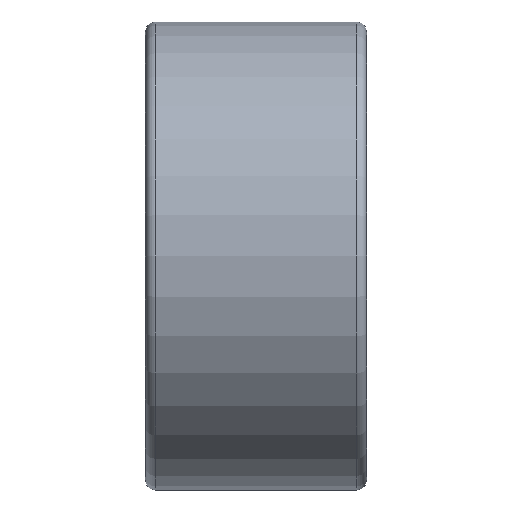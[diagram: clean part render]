
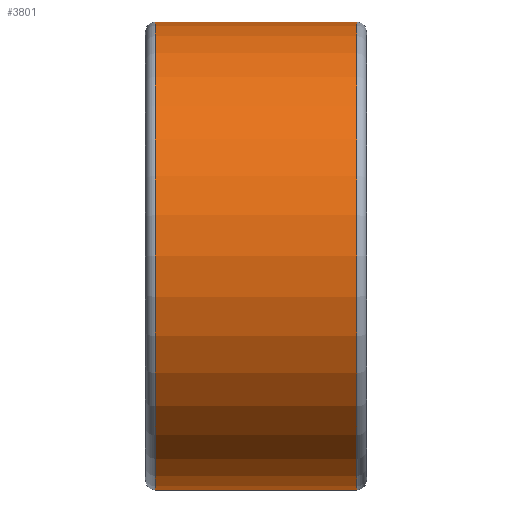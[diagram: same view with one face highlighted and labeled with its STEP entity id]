
A CAD part, front view. The second image highlights one B-rep face of the part: STEP entity #3801.
In plain terms, the highlighted cylindrical face has radius 23.5 mm (diameter 47 mm), a full revolution.
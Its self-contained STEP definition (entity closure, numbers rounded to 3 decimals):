
#531=FACE_OUTER_BOUND('',#734,.T.);
#734=EDGE_LOOP('',(#3519,#3520,#3521,#3522,#3523,#3524));
#1138=CIRCLE('',#4282,23.5);
#1139=CIRCLE('',#4283,23.5);
#1141=CIRCLE('',#4286,23.5);
#1142=CIRCLE('',#4287,23.5);
#1306=LINE('',#10165,#1460);
#1460=VECTOR('',#5150,23.5);
#1833=VERTEX_POINT('',#10156);
#1834=VERTEX_POINT('',#10157);
#1835=VERTEX_POINT('',#10162);
#1836=VERTEX_POINT('',#10163);
#2397=EDGE_CURVE('',#1833,#1834,#1138,.T.);
#2398=EDGE_CURVE('',#1834,#1833,#1139,.T.);
#2400=EDGE_CURVE('',#1835,#1836,#1141,.T.);
#2401=EDGE_CURVE('',#1835,#1834,#1306,.T.);
#2402=EDGE_CURVE('',#1836,#1835,#1142,.T.);
#3519=ORIENTED_EDGE('',*,*,#2400,.F.);
#3520=ORIENTED_EDGE('',*,*,#2401,.T.);
#3521=ORIENTED_EDGE('',*,*,#2397,.F.);
#3522=ORIENTED_EDGE('',*,*,#2398,.F.);
#3523=ORIENTED_EDGE('',*,*,#2401,.F.);
#3524=ORIENTED_EDGE('',*,*,#2402,.F.);
#3608=CYLINDRICAL_SURFACE('',#4285,23.5);
#3801=ADVANCED_FACE('',(#531),#3608,.T.);
#4282=AXIS2_PLACEMENT_3D('',#10158,#5140,#5141);
#4283=AXIS2_PLACEMENT_3D('',#10159,#5142,#5143);
#4285=AXIS2_PLACEMENT_3D('',#10161,#5146,#5147);
#4286=AXIS2_PLACEMENT_3D('',#10164,#5148,#5149);
#4287=AXIS2_PLACEMENT_3D('',#10166,#5151,#5152);
#5140=DIRECTION('center_axis',(-1.,0.,0.));
#5141=DIRECTION('ref_axis',(0.,-1.,0.));
#5142=DIRECTION('center_axis',(-1.,0.,0.));
#5143=DIRECTION('ref_axis',(0.,-1.,0.));
#5146=DIRECTION('center_axis',(1.,0.,0.));
#5147=DIRECTION('ref_axis',(0.,1.,0.));
#5148=DIRECTION('center_axis',(1.,0.,0.));
#5149=DIRECTION('ref_axis',(0.,-1.,0.));
#5150=DIRECTION('',(-1.,0.,0.));
#5151=DIRECTION('center_axis',(1.,0.,0.));
#5152=DIRECTION('ref_axis',(0.,-1.,0.));
#10156=CARTESIAN_POINT('',(-10.1,0.,23.5));
#10157=CARTESIAN_POINT('',(-10.1,-23.5,0.));
#10158=CARTESIAN_POINT('Origin',(-10.1,0.,0.));
#10159=CARTESIAN_POINT('Origin',(-10.1,0.,0.));
#10161=CARTESIAN_POINT('Origin',(0.,0.,
0.));
#10162=CARTESIAN_POINT('',(10.1,-23.5,0.));
#10163=CARTESIAN_POINT('',(10.1,0.,23.5));
#10164=CARTESIAN_POINT('Origin',(10.1,0.,0.));
#10165=CARTESIAN_POINT('',(0.,-23.5,0.));
#10166=CARTESIAN_POINT('Origin',(10.1,0.,0.));
